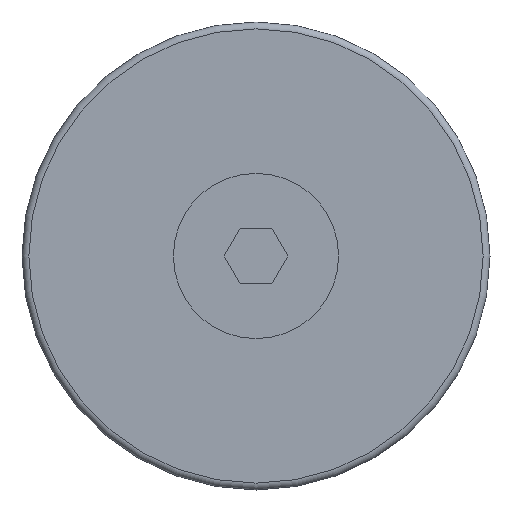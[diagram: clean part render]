
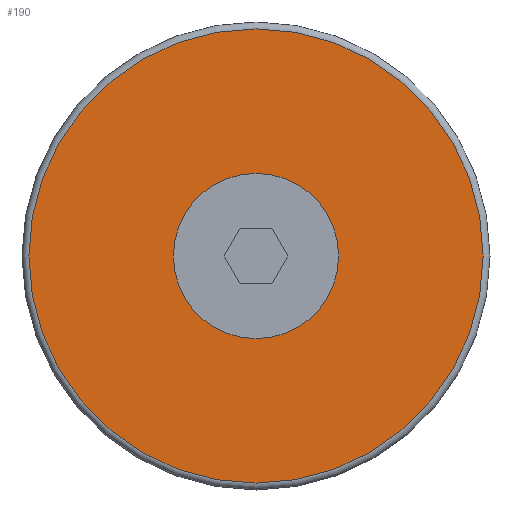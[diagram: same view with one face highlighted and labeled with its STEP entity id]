
A CAD part, front view. The second image highlights one B-rep face of the part: STEP entity #190.
In plain terms, the highlighted planar face has unit normal (0, -1, 0).
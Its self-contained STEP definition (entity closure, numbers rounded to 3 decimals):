
#190=ADVANCED_FACE('',(#281,#282),#283,.F.);
#281=FACE_BOUND('',#420,.T.);
#282=FACE_OUTER_BOUND('',#421,.T.);
#283=PLANE('',#422);
#420=EDGE_LOOP('',(#640));
#421=EDGE_LOOP('',(#641));
#422=AXIS2_PLACEMENT_3D('',#642,#643,#644);
#640=ORIENTED_EDGE('',*,*,#961,.F.);
#641=ORIENTED_EDGE('',*,*,#960,.T.);
#642=CARTESIAN_POINT('',(-16.5,-20.5,0.));
#643=DIRECTION('',(0.0,1.0,0.0));
#644=DIRECTION('',(0.0,0.0,1.0));
#960=EDGE_CURVE('',#1114,#1114,#1115,.T.);
#961=EDGE_CURVE('',#1116,#1116,#1117,.T.);
#1114=VERTEX_POINT('',#1336);
#1115=CIRCLE('',#1337,16.5);
#1116=VERTEX_POINT('',#1338);
#1117=CIRCLE('',#1339,6.0);
#1336=CARTESIAN_POINT('',(0.0,-20.5,-16.5));
#1337=AXIS2_PLACEMENT_3D('',#1680,#1681,#1682);
#1338=CARTESIAN_POINT('',(0.0,-20.5,-6.0));
#1339=AXIS2_PLACEMENT_3D('',#1683,#1684,#1685);
#1680=CARTESIAN_POINT('',(0.0,-20.5,0.));
#1681=DIRECTION('',(0.0,-1.0,0.0));
#1682=DIRECTION('',(0.0,0.0,-1.0));
#1683=CARTESIAN_POINT('',(0.0,-20.5,0.));
#1684=DIRECTION('',(0.0,-1.0,0.0));
#1685=DIRECTION('',(0.0,0.0,-1.0));
